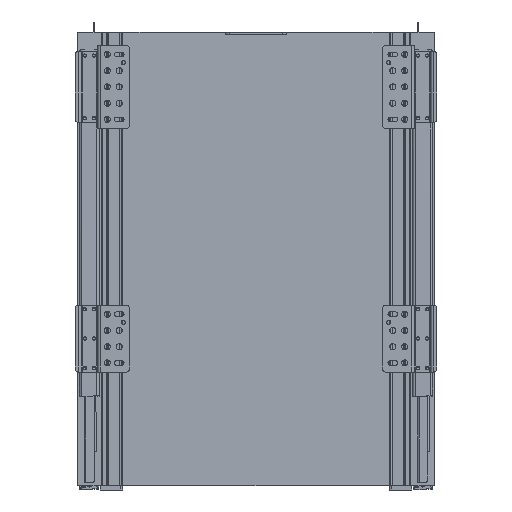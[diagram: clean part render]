
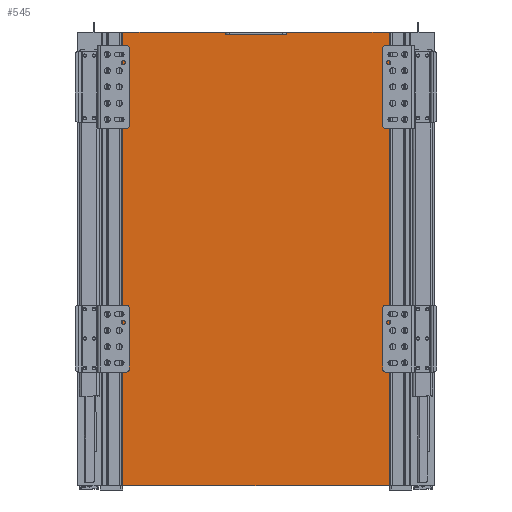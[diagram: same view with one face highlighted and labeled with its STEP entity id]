
A CAD part, front view. The second image highlights one B-rep face of the part: STEP entity #545.
In plain terms, the highlighted planar face has unit normal (0, -1, 0).
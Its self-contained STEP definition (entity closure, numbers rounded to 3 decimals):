
#114=DIRECTION('',(0.,0.,-1.));
#115=VECTOR('',#114,447.);
#116=CARTESIAN_POINT('',(-152.,0.,0.));
#117=LINE('',#116,#115);
#199=DIRECTION('',(0.,0.,-1.));
#200=VECTOR('',#199,2.8);
#201=CARTESIAN_POINT('',(30.,0.,0.));
#202=LINE('',#201,#200);
#203=DIRECTION('',(1.,0.,0.));
#204=VECTOR('',#203,60.);
#205=CARTESIAN_POINT('',(-30.,0.,-2.8));
#206=LINE('',#205,#204);
#207=DIRECTION('',(1.,0.,0.));
#208=VECTOR('',#207,122.);
#209=CARTESIAN_POINT('',(30.,0.,0.));
#210=LINE('',#209,#208);
#211=DIRECTION('',(0.,0.,-1.));
#212=VECTOR('',#211,447.);
#213=CARTESIAN_POINT('',(152.,0.,0.));
#214=LINE('',#213,#212);
#215=DIRECTION('',(1.,0.,0.));
#216=VECTOR('',#215,122.);
#217=CARTESIAN_POINT('',(-152.,0.,0.));
#218=LINE('',#217,#216);
#219=DIRECTION('',(0.,0.,-1.));
#220=VECTOR('',#219,2.8);
#221=CARTESIAN_POINT('',(-30.,0.,0.));
#222=LINE('',#221,#220);
#227=DIRECTION('',(1.,0.,0.));
#228=VECTOR('',#227,304.);
#229=CARTESIAN_POINT('',(-152.,0.,-447.));
#230=LINE('',#229,#228);
#253=CARTESIAN_POINT('',(30.,0.,-2.8));
#254=VERTEX_POINT('',#253);
#255=CARTESIAN_POINT('',(-30.,0.,-2.8));
#256=VERTEX_POINT('',#255);
#259=CARTESIAN_POINT('',(-30.,0.,0.));
#260=VERTEX_POINT('',#259);
#261=CARTESIAN_POINT('',(-152.,0.,0.));
#262=VERTEX_POINT('',#261);
#267=CARTESIAN_POINT('',(152.,0.,0.));
#268=VERTEX_POINT('',#267);
#269=CARTESIAN_POINT('',(30.,0.,0.));
#270=VERTEX_POINT('',#269);
#271=CARTESIAN_POINT('',(152.,0.,-447.));
#272=VERTEX_POINT('',#271);
#273=CARTESIAN_POINT('',(-152.,0.,-447.));
#274=VERTEX_POINT('',#273);
#528=CARTESIAN_POINT('',(-152.,0.,0.));
#529=DIRECTION('',(0.,-1.,0.));
#530=DIRECTION('',(1.,0.,0.));
#531=AXIS2_PLACEMENT_3D('',#528,#529,#530);
#532=PLANE('',#531);
#533=ORIENTED_EDGE('',*,*,#482,.T.);
#534=ORIENTED_EDGE('',*,*,#522,.F.);
#535=ORIENTED_EDGE('',*,*,#444,.T.);
#536=ORIENTED_EDGE('',*,*,#341,.T.);
#538=ORIENTED_EDGE('',*,*,#537,.F.);
#539=ORIENTED_EDGE('',*,*,#382,.F.);
#540=ORIENTED_EDGE('',*,*,#439,.T.);
#542=ORIENTED_EDGE('',*,*,#541,.T.);
#543=EDGE_LOOP('',(#533,#534,#535,#536,#538,#539,#540,#542));
#544=FACE_OUTER_BOUND('',#543,.F.);
#341=EDGE_CURVE('',#268,#272,#214,.T.);
#382=EDGE_CURVE('',#262,#274,#117,.T.);
#439=EDGE_CURVE('',#262,#260,#218,.T.);
#444=EDGE_CURVE('',#270,#268,#210,.T.);
#482=EDGE_CURVE('',#256,#254,#206,.T.);
#522=EDGE_CURVE('',#270,#254,#202,.T.);
#537=EDGE_CURVE('',#274,#272,#230,.T.);
#541=EDGE_CURVE('',#260,#256,#222,.T.);
#545=ADVANCED_FACE('',(#544),#532,.T.);
